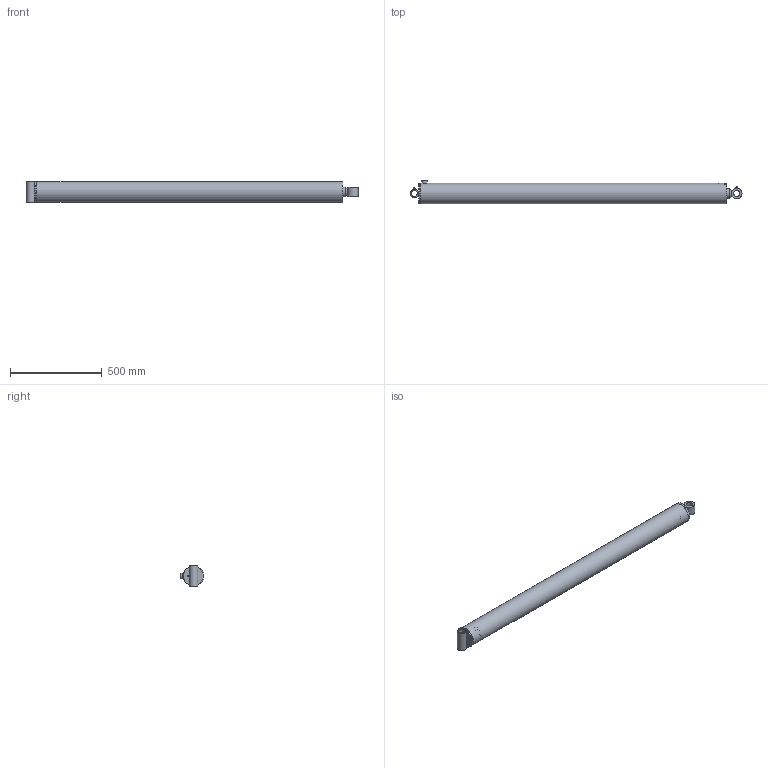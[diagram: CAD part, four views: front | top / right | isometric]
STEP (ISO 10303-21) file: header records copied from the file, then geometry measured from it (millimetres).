
FILE_DESCRIPTION((''),'2;1');
FILE_NAME('\\SRVR-ENG\EngSales\PMC-5660V.stp','2013-08-30T09:45:59',('KneiflD'),(''),'Autodesk Inventor 2012','Autodesk Inventor 2012','');
FILE_SCHEMA(('AUTOMOTIVE_DESIGN { 1 0 10303 214 1 1 1 1 }'));
Length unit declared in the file: inch
Products named in the file (23): PMC-5660V; 061900047V; 051900069V; 161900081V; 200014404V; 210600086V; 0211003126V; 011100882V; 210600347V; 071900019; 081900451V; 220000212V; 240004008V; 240034342V; 240000342V; 240000026V; 240061342V; 240020009V; 230001400V; 200018003V; 270010002V; 270010020V; 250001329V
Assembly tree (25 placements, depth 3):
  PMC-5660V
    061900047V
      051900069V
      161900081V
      200014404V
      210600086V
    0211003126V
      011100882V
      210600347V
    071900019
    081900451V
    220000212V
    240004008V
    240034342V  x2
    240000342V  x2
    240000026V
    240061342V
    240020009V
    230001400V
    200018003V  x2
    270010002V
    270010020V
    250001329V
Bounding box: 1804.99 x 127 x 114.3 mm (x, y, z)
Volume: 6974555.2 mm3; surface area: 1604925.7 mm2
Topology: 23 solids, 23 shells, 258 faces, 529 edges, 321 vertices
Faces by surface type: plane 114, cylinder 65, cone 39, torus 35, bspline 3, sphere 2
Full cylindrical faces by diameter (mm): 1.524 x2, 3.175 x2, 6.074 x1, 8.839 x2, 9.08 x1, 12.7 x1, 17.463 x1, 17.475 x1, 23.813 x1, 28.575 x1, 29.972 x1, 31.699 x1, 31.826 x1, 32.258 x1, 32.385 x1, 34.315 x1, 47.625 x1, 50.8 x2, 50.876 x2, 51.752 x1, 54.61 x1, 57.15 x1, 58.725 x2, 59.373 x1, 60.325 x1, 60.452 x1, 63.5 x1, 80.95 x1, 91.592 x1, 92.151 x1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
Entity records: 6719 total; most frequent: CARTESIAN_POINT 1546, DIRECTION 1047, ORIENTED_EDGE 684, AXIS2_PLACEMENT_3D 478, EDGE_LOOP 408, EDGE_CURVE 342, VERTEX_POINT 276, FACE_OUTER_BOUND 236
